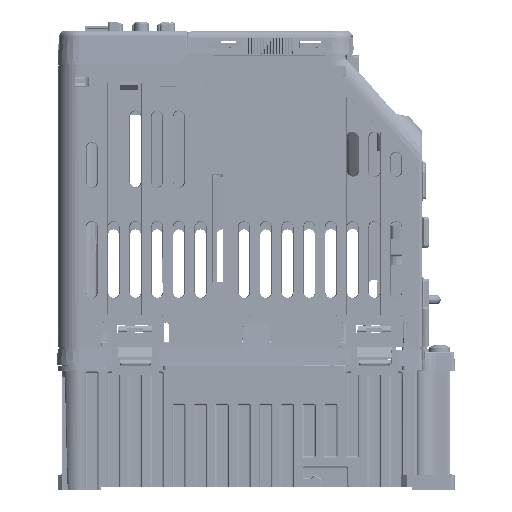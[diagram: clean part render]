
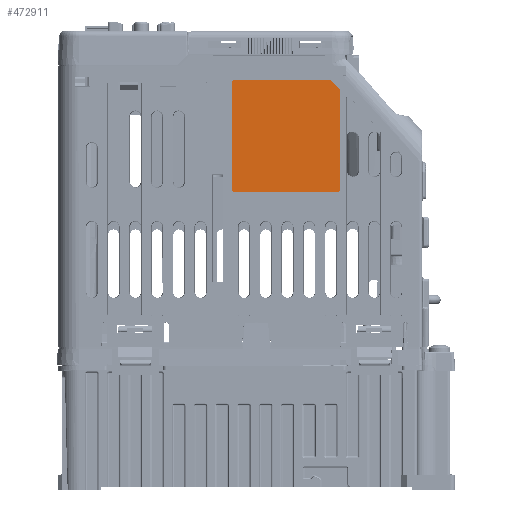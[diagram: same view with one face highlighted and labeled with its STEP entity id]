
A CAD part, left-side view. The second image highlights one B-rep face of the part: STEP entity #472911.
In plain terms, the highlighted planar face has unit normal (-1, 0, 0) as drawn and (0, 0, 1) by its records, which use the part's own axes.
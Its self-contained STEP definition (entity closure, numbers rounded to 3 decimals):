
#472754=CARTESIAN_POINT('',(1.,-34.,0.));
#472755=DIRECTION('',(0.,0.,-1.));
#472756=DIRECTION('',(0.,-1.,0.));
#472757=AXIS2_PLACEMENT_3D('',#472754,#472755,#472756);
#472759=CARTESIAN_POINT('',(1.,-1.,0.));
#472760=DIRECTION('',(0.,0.,-1.));
#472761=DIRECTION('',(-1.,0.,0.));
#472762=AXIS2_PLACEMENT_3D('',#472759,#472760,#472761);
#472764=CARTESIAN_POINT('',(35.,-1.,0.));
#472765=DIRECTION('',(0.,0.,-1.));
#472766=DIRECTION('',(0.,1.,0.));
#472767=AXIS2_PLACEMENT_3D('',#472764,#472765,#472766);
#472769=DIRECTION('',(-0.707,-0.707,0.));
#472770=VECTOR('',#472769,4.243);
#472771=CARTESIAN_POINT('',(36.,-32.,0.));
#472772=LINE('',#472771,#472770);
#472773=DIRECTION('',(1.,0.,0.));
#472774=VECTOR('',#472773,32.);
#472775=CARTESIAN_POINT('',(1.,-35.,0.));
#472776=LINE('',#472775,#472774);
#472785=DIRECTION('',(0.,1.,0.));
#472786=VECTOR('',#472785,31.);
#472787=CARTESIAN_POINT('',(36.,-32.,0.));
#472788=LINE('',#472787,#472786);
#472797=DIRECTION('',(-1.,0.,0.));
#472798=VECTOR('',#472797,34.);
#472799=CARTESIAN_POINT('',(35.,0.,0.));
#472800=LINE('',#472799,#472798);
#472809=DIRECTION('',(0.,-1.,0.));
#472810=VECTOR('',#472809,33.);
#472811=CARTESIAN_POINT('',(0.,-1.,0.));
#472812=LINE('',#472811,#472810);
#472856=CARTESIAN_POINT('',(1.,-35.,0.));
#472857=CARTESIAN_POINT('',(33.,-35.,0.));
#472858=VERTEX_POINT('',#472856);
#472859=VERTEX_POINT('',#472857);
#472860=CARTESIAN_POINT('',(0.,-34.,0.));
#472861=VERTEX_POINT('',#472860);
#472862=CARTESIAN_POINT('',(0.,-1.,0.));
#472863=VERTEX_POINT('',#472862);
#472864=CARTESIAN_POINT('',(1.,0.,0.));
#472865=VERTEX_POINT('',#472864);
#472866=CARTESIAN_POINT('',(35.,0.,0.));
#472867=VERTEX_POINT('',#472866);
#472868=CARTESIAN_POINT('',(36.,-1.,0.));
#472869=VERTEX_POINT('',#472868);
#472870=CARTESIAN_POINT('',(36.,-32.,0.));
#472871=VERTEX_POINT('',#472870);
#472888=CARTESIAN_POINT('',(0.,0.,0.));
#472889=DIRECTION('',(0.,0.,1.));
#472890=DIRECTION('',(1.,0.,0.));
#472891=AXIS2_PLACEMENT_3D('',#472888,#472889,#472890);
#472892=PLANE('',#472891);
#472894=ORIENTED_EDGE('',*,*,#472893,.F.);
#472896=ORIENTED_EDGE('',*,*,#472895,.T.);
#472898=ORIENTED_EDGE('',*,*,#472897,.F.);
#472900=ORIENTED_EDGE('',*,*,#472899,.T.);
#472902=ORIENTED_EDGE('',*,*,#472901,.F.);
#472904=ORIENTED_EDGE('',*,*,#472903,.T.);
#472906=ORIENTED_EDGE('',*,*,#472905,.F.);
#472908=ORIENTED_EDGE('',*,*,#472907,.T.);
#472909=EDGE_LOOP('',(#472894,#472896,#472898,#472900,#472902,#472904,#472906,
#472908));
#472910=FACE_OUTER_BOUND('',#472909,.F.);
#472911=ADVANCED_FACE('',(#472910),#472892,.T.);
#472758=CIRCLE('',#472757,1.);
#472763=CIRCLE('',#472762,1.);
#472768=CIRCLE('',#472767,1.);
#472893=EDGE_CURVE('',#472858,#472859,#472776,.T.);
#472895=EDGE_CURVE('',#472858,#472861,#472758,.T.);
#472897=EDGE_CURVE('',#472863,#472861,#472812,.T.);
#472899=EDGE_CURVE('',#472863,#472865,#472763,.T.);
#472901=EDGE_CURVE('',#472867,#472865,#472800,.T.);
#472903=EDGE_CURVE('',#472867,#472869,#472768,.T.);
#472905=EDGE_CURVE('',#472871,#472869,#472788,.T.);
#472907=EDGE_CURVE('',#472871,#472859,#472772,.T.);
